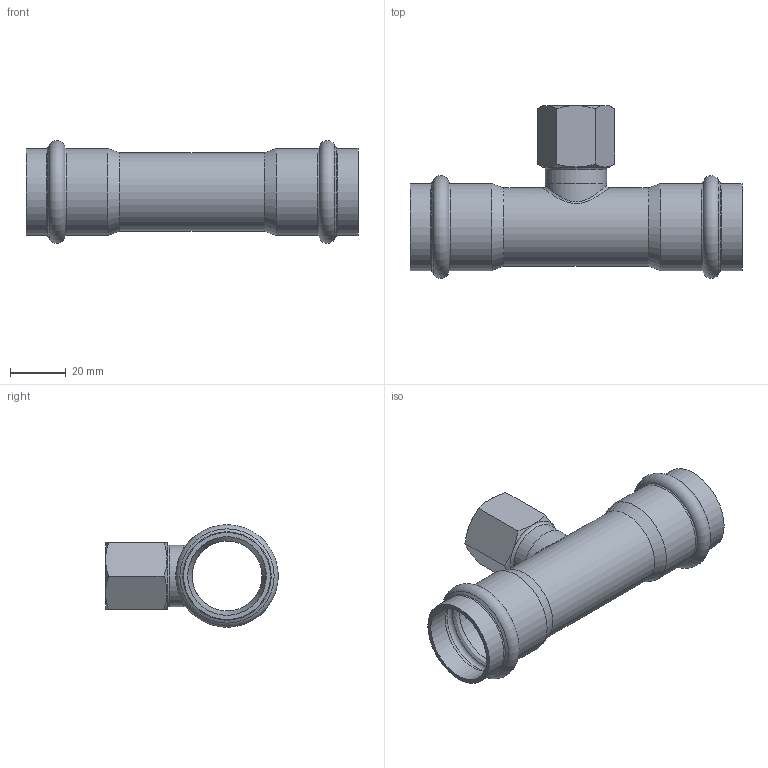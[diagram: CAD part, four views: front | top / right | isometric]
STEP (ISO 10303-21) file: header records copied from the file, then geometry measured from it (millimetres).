
FILE_DESCRIPTION((''),'2;1');
FILE_NAME('G:\Technics\CAD\Bauteile\028\69130G281228(2).stp','2008-02-26T14:49:59',('herberg'),(''),'Autodesk Inventor 2008','Autodesk Inventor 2008','');
FILE_SCHEMA(('AUTOMOTIVE_DESIGN { 1 0 10303 214 1 1 1 1 }'));
Length unit declared in the file: millimetre
Products named in the file (3): 69130G281228(2); LM_69130282228(0); IG2212(1)
Assembly tree (2 placements, depth 2):
  69130G281228(2)
    LM_69130282228(0)
    IG2212(1)
Bounding box: 119 x 61.89 x 36.79 mm (x, y, z)
Volume: 22214.6 mm3; surface area: 26936.8 mm2
Topology: 2 solids, 2 shells, 63 faces, 136 edges, 78 vertices
Faces by surface type: cone 21, bspline 14, cylinder 13, plane 11, torus 4
Full cylindrical faces by diameter (mm): 19 x1, 22 x2, 25 x1, 28 x1, 28.2 x4, 31.2 x4
Entity records: 3178 total; most frequent: CARTESIAN_POINT 2036, DIRECTION 222, ORIENTED_EDGE 178, AXIS2_PLACEMENT_3D 108, EDGE_LOOP 108, EDGE_CURVE 89, VERTEX_POINT 69, FACE_OUTER_BOUND 63
